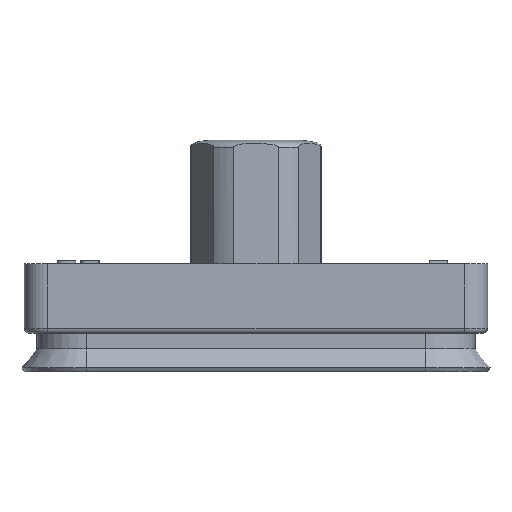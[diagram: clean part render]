
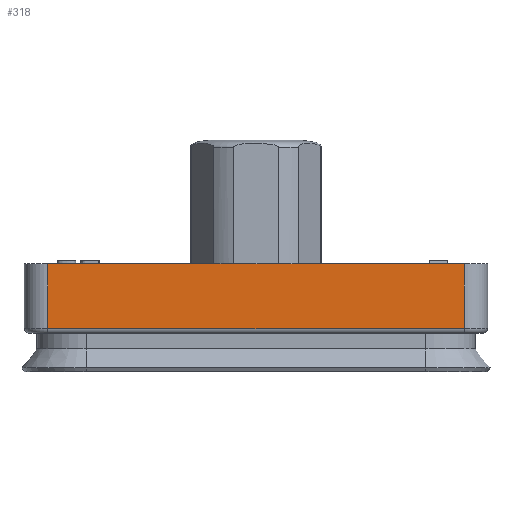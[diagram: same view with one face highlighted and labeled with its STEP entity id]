
A CAD part, front view. The second image highlights one B-rep face of the part: STEP entity #318.
In plain terms, the highlighted planar face has unit normal (0, -1, 0).
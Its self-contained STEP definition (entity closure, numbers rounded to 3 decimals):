
#318 = ADVANCED_FACE( '', ( #738 ), #739, .T. );
#738 = FACE_OUTER_BOUND( '', #1287, .T. );
#739 = PLANE( '', #1288 );
#1287 = EDGE_LOOP( '', ( #2381, #2382, #2383, #2384, #2385, #2386 ) );
#1288 = AXIS2_PLACEMENT_3D( '', #2387, #2388, #2389 );
#2381 = ORIENTED_EDGE( '', *, *, #3708, .F. );
#2382 = ORIENTED_EDGE( '', *, *, #3551, .T. );
#2383 = ORIENTED_EDGE( '', *, *, #3591, .T. );
#2384 = ORIENTED_EDGE( '', *, *, #3544, .F. );
#2385 = ORIENTED_EDGE( '', *, *, #3709, .T. );
#2386 = ORIENTED_EDGE( '', *, *, #3677, .F. );
#2387 = CARTESIAN_POINT( '', ( -13.5, -3.5, -6. ) );
#2388 = DIRECTION( '', ( 0., -1., 0. ) );
#2389 = DIRECTION( '', ( 0., 0., -1. ) );
#3544 = EDGE_CURVE( '', #4215, #4217, #4218, .T. );
#3551 = EDGE_CURVE( '', #4129, #4226, #4228, .T. );
#3591 = EDGE_CURVE( '', #4226, #4217, #4288, .T. );
#3677 = EDGE_CURVE( '', #4422, #4423, #4424, .T. );
#3708 = EDGE_CURVE( '', #4129, #4422, #4466, .T. );
#3709 = EDGE_CURVE( '', #4215, #4423, #4467, .T. );
#4129 = VERTEX_POINT( '', #5209 );
#4215 = VERTEX_POINT( '', #5380 );
#4217 = VERTEX_POINT( '', #5382 );
#4218 = LINE( '', #5383, #5384 );
#4226 = VERTEX_POINT( '', #5394 );
#4228 = LINE( '', #5396, #5397 );
#4288 = LINE( '', #5586, #5587 );
#4422 = VERTEX_POINT( '', #6042 );
#4423 = VERTEX_POINT( '', #6043 );
#4424 = LINE( '', #6044, #6045 );
#4466 = LINE( '', #6135, #6136 );
#4467 = LINE( '', #6137, #6138 );
#5209 = CARTESIAN_POINT( '', ( -13.5, -3.5, -5.7 ) );
#5380 = CARTESIAN_POINT( '', ( 2.411, -3.5, -1.5 ) );
#5382 = CARTESIAN_POINT( '', ( 13.5, -3.5, -1.5 ) );
#5383 = CARTESIAN_POINT( '', ( -13.5, -3.5, -1.5 ) );
#5384 = VECTOR( '', #6678, 1000. );
#5394 = CARTESIAN_POINT( '', ( 13.5, -3.5, -5.7 ) );
#5396 = CARTESIAN_POINT( '', ( 13.5, -3.5, -5.7 ) );
#5397 = VECTOR( '', #6690, 1000. );
#5586 = CARTESIAN_POINT( '', ( 13.5, -3.5, -6. ) );
#5587 = VECTOR( '', #6730, 1000. );
#6042 = CARTESIAN_POINT( '', ( -13.5, -3.5, -1.5 ) );
#6043 = CARTESIAN_POINT( '', ( -2.411, -3.5, -1.5 ) );
#6044 = CARTESIAN_POINT( '', ( -13.5, -3.5, -1.5 ) );
#6045 = VECTOR( '', #6779, 1000. );
#6135 = CARTESIAN_POINT( '', ( -13.5, -3.5, -6. ) );
#6136 = VECTOR( '', #6808, 1000. );
#6137 = CARTESIAN_POINT( '', ( -13.5, -3.5, -1.5 ) );
#6138 = VECTOR( '', #6809, 1000. );
#6678 = DIRECTION( '', ( 1., 0., 0. ) );
#6690 = DIRECTION( '', ( 1., 0., 0. ) );
#6730 = DIRECTION( '', ( 0., 0., 1. ) );
#6779 = DIRECTION( '', ( 1., 0., 0. ) );
#6808 = DIRECTION( '', ( 0., 0., 1. ) );
#6809 = DIRECTION( '', ( -1., 0., 0. ) );
